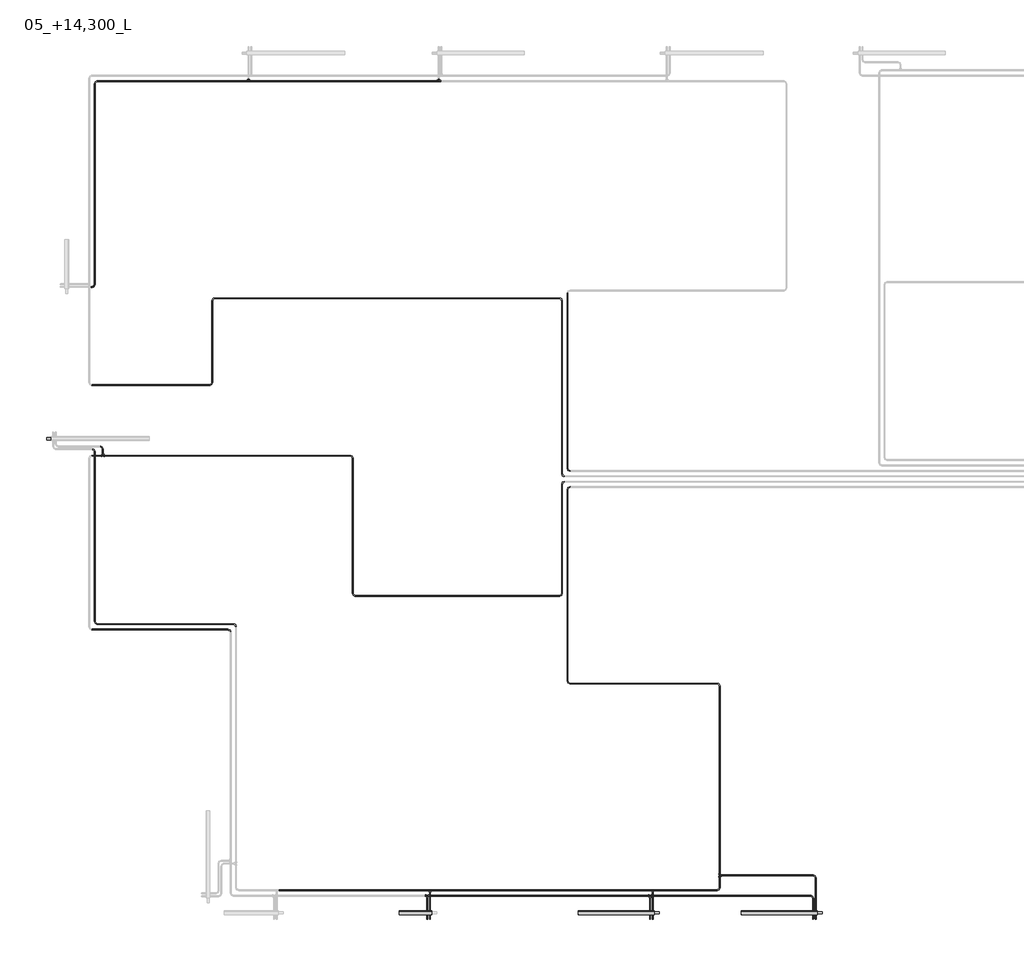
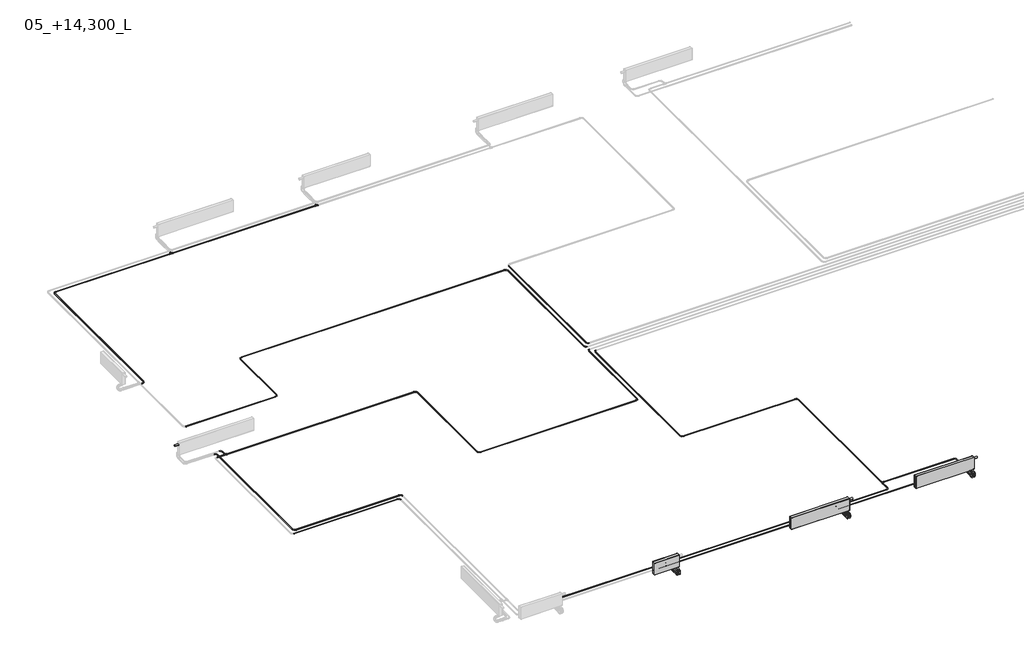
# One storey, part 7 of 15: 36 pipe fittings, 33 pipe segments, 3 proxies, 3 valves.
"""IFC4 building model written with IfcOpenShell, lengths in millimetres."""

from ifc_helpers import new_model, si_unit, point, frame, frame_2d, origin, place, context, project, spatial, circle_curve, trimmed, segment, composite_curve, outline, extrude, transform, mapped, element, save
from components import mechanical_equipment_c68842d5, mechanical_equipment_feb41a6e, pipe_fitting_ed936812, pipe_fitting_44bd76dc, pipe_fitting_8f811e63, pipe_fitting_d927fdfb, valve_5b696a81, valve_d3faaedd

model = new_model("IFC4")

# Units and contexts
model_context = context("Model", 3, world=origin())
ifc_project = project(units=[si_unit("LENGTHUNIT", "METRE", prefix="MILLI")], contexts=[model_context])

# Site, building, storey
site = spatial("IfcSite", under=ifc_project)
building = spatial("IfcBuilding", under=site)
storey = spatial("IfcBuildingStorey", under=building, Name="05_+14,300_L", Elevation=14300.0)

# Proxies
placement = place(None, origin())
mechanical_equipment_shape = mechanical_equipment_c68842d5(model_context)
element("IfcBuildingElementProxy", 1, Name="EVRA CV Д : 21-300-1400", ObjectType="EVRA CV Д : 21-300-1400", at=placement, inside=storey, context=model_context, shape_type="MappedRepresentation", body=[
    mapped(mechanical_equipment_shape, transform((60800.0, 112561.4631102, 14300.0), x_axis=(-1.0, 0.0, 0.0), y_axis=(0.0, -1.0, 0.0), z_axis=(0.0, 0.0, 1.0))),
])
element("IfcBuildingElementProxy", 2, Name="EVRA CV Д : 21-300-1400", ObjectType="EVRA CV Д : 21-300-1400", at=placement, inside=storey, context=model_context, shape_type="MappedRepresentation", body=[
    mapped(mechanical_equipment_shape, transform((57800.0, 112561.4631102, 14300.0), x_axis=(-1.0, 0.0, 0.0), y_axis=(0.0, -1.0, 0.0), z_axis=(0.0, 0.0, 1.0))),
])
mechanical_equipment_2_shape = mechanical_equipment_feb41a6e(model_context)
element("IfcBuildingElementProxy", 3, Name="EVRA CV Д : 21-300-600", ObjectType="EVRA CV Д : 21-300-600", at=placement, inside=storey, context=model_context, shape_type="MappedRepresentation", body=[
    mapped(mechanical_equipment_2_shape, transform((54100.0, 112561.4631102, 14300.0), x_axis=(-1.0, 0.0, 0.0), y_axis=(0.0, -1.0, 0.0), z_axis=(0.0, 0.0, 1.0))),
])

# Pipe fittings
pipe_fitting_shape = pipe_fitting_ed936812(model_context)
element("IfcPipeFitting", 4, ObjectType="ADSK_Пресс-фитинг ПЭ_Поворот с фиксатором : Поворот трубы", at=placement, inside=storey, context=model_context, shape_type="MappedRepresentation", body=[
    mapped(pipe_fitting_shape, transform((48000.0, 124110.0000002, 14250.0), x_axis=(1.0, 0.0, 0.0), y_axis=(0.0, 1.0, 0.0), z_axis=(0.0, 0.0, 1.0))),
])
pipe_fitting_2_shape = pipe_fitting_44bd76dc(model_context)
element("IfcPipeFitting", 5, ObjectType="ADSK_Пресс-фитинг ПЭ_Тройник : Пластик черный", at=placement, inside=storey, context=model_context, shape_type="MappedRepresentation", body=[
    mapped(pipe_fitting_2_shape, transform((59500.0, 113273.0, 14250.0), x_axis=(0.0, 1.0, 0.0), y_axis=(-1.0, 0.0, 0.0), z_axis=(0.0, 0.0, 1.0))),
])
element("IfcPipeFitting", 6, ObjectType="ADSK_Пресс-фитинг ПЭ_Тройник : Пластик черный", at=placement, inside=storey, context=model_context, shape_type="MappedRepresentation", body=[
    mapped(pipe_fitting_2_shape, transform((58270.0, 113000.0, 14250.0), x_axis=(1.0, 0.0, 0.0), y_axis=(0.0, 1.0, 0.0), z_axis=(0.0, 0.0, 1.0))),
])
element("IfcPipeFitting", 7, ObjectType="ADSK_Пресс-фитинг ПЭ_Тройник : Пластик черный", at=placement, inside=storey, context=model_context, shape_type="MappedRepresentation", body=[
    mapped(pipe_fitting_2_shape, transform((48150.0, 121000.0000002, 14250.0), x_axis=(1.0, 0.0, 0.0), y_axis=(0.0, -1.0, 0.0), z_axis=(0.0, 0.0, -1.0))),
])
element("IfcPipeFitting", 8, ObjectType="ADSK_Пресс-фитинг ПЭ_Тройник : Пластик черный", at=placement, inside=storey, context=model_context, shape_type="MappedRepresentation", body=[
    mapped(pipe_fitting_2_shape, transform((50830.0, 127900.0, 14250.0), x_axis=(1.0, 0.0, 0.0), y_axis=(0.0, -1.0, 0.0), z_axis=(0.0, 0.0, -1.0))),
])
element("IfcPipeFitting", 9, ObjectType="ADSK_Пресс-фитинг ПЭ_Тройник : Пластик черный", at=placement, inside=storey, context=model_context, shape_type="MappedRepresentation", body=[
    mapped(pipe_fitting_2_shape, transform((54330.0, 127900.0, 14250.0), x_axis=(1.0, 0.0, 0.0), y_axis=(0.0, -1.0, 0.0), z_axis=(0.0, 0.0, -1.0))),
])
element("IfcPipeFitting", 10, ObjectType="ADSK_Пресс-фитинг ПЭ_Тройник : Пластик черный", at=placement, inside=storey, context=model_context, shape_type="MappedRepresentation", body=[
    mapped(pipe_fitting_2_shape, transform((58220.0, 112900.0, 14250.0), x_axis=(1.0, 0.0, 0.0), y_axis=(0.0, 1.0, 0.0), z_axis=(0.0, 0.0, 1.0))),
])
element("IfcPipeFitting", 11, ObjectType="ADSK_Пресс-фитинг ПЭ_Тройник : Пластик черный", at=placement, inside=storey, context=model_context, shape_type="MappedRepresentation", body=[
    mapped(pipe_fitting_2_shape, transform((54170.0, 113000.0, 14250.0), x_axis=(1.0, 0.0, 0.0), y_axis=(0.0, 1.0, 0.0), z_axis=(0.0, 0.0, 1.0))),
])
element("IfcPipeFitting", 12, ObjectType="ADSK_Пресс-фитинг ПЭ_Тройник : Пластик черный", at=placement, inside=storey, context=model_context, shape_type="MappedRepresentation", body=[
    mapped(pipe_fitting_2_shape, transform((54120.0, 112900.0, 14250.0), x_axis=(1.0, 0.0, 0.0), y_axis=(0.0, 1.0, 0.0), z_axis=(0.0, 0.0, 1.0))),
])
pipe_fitting_3_shape = pipe_fitting_8f811e63(model_context)
element("IfcPipeFitting", 13, ObjectType="ADSK_Пресс-фитинг ПЭ_Поворот с фиксатором : Поворот трубы", at=placement, inside=storey, context=model_context, shape_type="MappedRepresentation", body=[
    mapped(pipe_fitting_3_shape, transform((59500.0, 116805.0000002, 14250.0), x_axis=(0.0, 1.0, 0.0), y_axis=(-1.0, 0.0, 0.0), z_axis=(0.0, 0.0, 1.0))),
])
element("IfcPipeFitting", 14, ObjectType="ADSK_Пресс-фитинг ПЭ_Поворот с фиксатором : Поворот трубы", at=placement, inside=storey, context=model_context, shape_type="MappedRepresentation", body=[
    mapped(pipe_fitting_3_shape, transform((59500.0, 113000.0, 14250.0), x_axis=(1.0, 0.0, 0.0), y_axis=(0.0, 1.0, 0.0), z_axis=(0.0, 0.0, 1.0))),
])
element("IfcPipeFitting", 15, ObjectType="ADSK_Пресс-фитинг ПЭ_Поворот с фиксатором : Поворот трубы", at=placement, inside=storey, context=model_context, shape_type="MappedRepresentation", body=[
    mapped(pipe_fitting_3_shape, transform((48000.0, 127900.0, 14250.0), x_axis=(-1.0, 0.0, 0.0), y_axis=(0.0, -1.0, 0.0), z_axis=(0.0, 0.0, 1.0))),
])
element("IfcPipeFitting", 16, ObjectType="ADSK_Пресс-фитинг ПЭ_Поворот с фиксатором : Поворот трубы", at=placement, inside=storey, context=model_context, shape_type="MappedRepresentation", body=[
    mapped(pipe_fitting_3_shape, transform((56700.0, 116805.0000002, 14250.0), x_axis=(0.0, -1.0, 0.0), y_axis=(1.0, 0.0, 0.0), z_axis=(0.0, 0.0, 1.0))),
])
element("IfcPipeFitting", 17, ObjectType="ADSK_Пресс-фитинг ПЭ_Поворот с фиксатором : Поворот трубы", at=placement, inside=storey, context=model_context, shape_type="MappedRepresentation", body=[
    mapped(pipe_fitting_3_shape, transform((56600.0, 118420.0, 14250.0), x_axis=(1.0, 0.0, 0.0), y_axis=(0.0, 1.0, 0.0), z_axis=(0.0, 0.0, 1.0))),
])
element("IfcPipeFitting", 18, ObjectType="ADSK_Пресс-фитинг ПЭ_Поворот с фиксатором : Поворот трубы", at=placement, inside=storey, context=model_context, shape_type="MappedRepresentation", body=[
    mapped(pipe_fitting_3_shape, transform((56600.0, 123900.0, 14250.0), x_axis=(0.0, 1.0, 0.0), y_axis=(-1.0, 0.0, 0.0), z_axis=(0.0, 0.0, 1.0))),
])
element("IfcPipeFitting", 19, ObjectType="ADSK_Пресс-фитинг ПЭ_Поворот с фиксатором : Поворот трубы", at=placement, inside=storey, context=model_context, shape_type="MappedRepresentation", body=[
    mapped(pipe_fitting_3_shape, transform((56700.0, 120421.8369308, 14250.0), x_axis=(-1.0, 0.0, 0.0), y_axis=(0.0, -1.0, 0.0), z_axis=(0.0, 0.0, 1.0))),
])
element("IfcPipeFitting", 20, ObjectType="ADSK_Пресс-фитинг ПЭ_Поворот с фиксатором : Поворот трубы", at=placement, inside=storey, context=model_context, shape_type="MappedRepresentation", body=[
    mapped(pipe_fitting_3_shape, transform((56600.0, 120521.8369308, 14250.0), x_axis=(-1.0, 0.0, 0.0), y_axis=(0.0, -1.0, 0.0), z_axis=(0.0, 0.0, 1.0))),
])
element("IfcPipeFitting", 21, ObjectType="ADSK_Пресс-фитинг ПЭ_Поворот с фиксатором : Поворот трубы", at=placement, inside=storey, context=model_context, shape_type="MappedRepresentation", body=[
    mapped(pipe_fitting_3_shape, transform((56600.0, 120621.8369308, 14250.0), x_axis=(0.0, -1.0, 0.0), y_axis=(1.0, 0.0, 0.0), z_axis=(0.0, 0.0, 1.0))),
])
element("IfcPipeFitting", 22, ObjectType="ADSK_Пресс-фитинг ПЭ_Поворот с фиксатором : Поворот трубы", at=placement, inside=storey, context=model_context, shape_type="MappedRepresentation", body=[
    mapped(pipe_fitting_3_shape, transform((56700.0, 120721.8369308, 14250.0), x_axis=(0.0, -1.0, 0.0), y_axis=(1.0, 0.0, 0.0), z_axis=(0.0, 0.0, 1.0))),
])
element("IfcPipeFitting", 23, ObjectType="ADSK_Пресс-фитинг ПЭ_Поворот с фиксатором : Поворот трубы", at=placement, inside=storey, context=model_context, shape_type="MappedRepresentation", body=[
    mapped(pipe_fitting_3_shape, transform((50159.9999998, 123900.0, 14250.0), x_axis=(-1.0, 0.0, 0.0), y_axis=(0.0, -1.0, 0.0), z_axis=(0.0, 0.0, 1.0))),
])
element("IfcPipeFitting", 24, ObjectType="ADSK_Пресс-фитинг ПЭ_Поворот с фиксатором : Поворот трубы", at=placement, inside=storey, context=model_context, shape_type="MappedRepresentation", body=[
    mapped(pipe_fitting_3_shape, transform((50159.9999998, 122300.0, 14250.0), x_axis=(1.0, 0.0, 0.0), y_axis=(0.0, 1.0, 0.0), z_axis=(0.0, 0.0, 1.0))),
])
element("IfcPipeFitting", 25, ObjectType="ADSK_Пресс-фитинг ПЭ_Поворот с фиксатором : Поворот трубы", at=placement, inside=storey, context=model_context, shape_type="MappedRepresentation", body=[
    mapped(pipe_fitting_3_shape, transform((52749.0000003, 118420.0, 14250.0), x_axis=(0.0, -1.0, 0.0), y_axis=(1.0, 0.0, 0.0), z_axis=(0.0, 0.0, 1.0))),
])
element("IfcPipeFitting", 26, ObjectType="ADSK_Пресс-фитинг ПЭ_Поворот с фиксатором : Поворот трубы", at=placement, inside=storey, context=model_context, shape_type="MappedRepresentation", body=[
    mapped(pipe_fitting_3_shape, transform((52749.0000003, 121000.0000002, 14250.0), x_axis=(0.0, 1.0, 0.0), y_axis=(-1.0, 0.0, 0.0), z_axis=(0.0, 0.0, 1.0))),
])
element("IfcPipeFitting", 27, ObjectType="ADSK_Пресс-фитинг ПЭ_Поворот с фиксатором : Поворот трубы", at=placement, inside=storey, context=model_context, shape_type="MappedRepresentation", body=[
    mapped(pipe_fitting_3_shape, transform((48150.0, 121173.0000002, 14250.0), x_axis=(0.0, 1.0, 0.0), y_axis=(-1.0, 0.0, 0.0), z_axis=(0.0, 0.0, 1.0))),
])
element("IfcPipeFitting", 28, ObjectType="ADSK_Пресс-фитинг ПЭ_Поворот с фиксатором : Поворот трубы", at=placement, inside=storey, context=model_context, shape_type="MappedRepresentation", body=[
    mapped(pipe_fitting_3_shape, transform((48000.0, 121123.0000002, 14250.0), x_axis=(0.0, 1.0, 0.0), y_axis=(-1.0, 0.0, 0.0), z_axis=(0.0, 0.0, 1.0))),
])
element("IfcPipeFitting", 29, ObjectType="ADSK_Пресс-фитинг ПЭ_Поворот с фиксатором : Поворот трубы", at=placement, inside=storey, context=model_context, shape_type="MappedRepresentation", body=[
    mapped(pipe_fitting_3_shape, transform((48000.0, 117900.0000002, 14250.0), x_axis=(0.0, -1.0, 0.0), y_axis=(1.0, 0.0, 0.0), z_axis=(0.0, 0.0, 1.0))),
])
element("IfcPipeFitting", 30, ObjectType="ADSK_Пресс-фитинг ПЭ_Поворот с фиксатором : Поворот трубы", at=placement, inside=storey, context=model_context, shape_type="MappedRepresentation", body=[
    mapped(pipe_fitting_3_shape, transform((50499.9999998, 117800.0000002, 14250.0), x_axis=(0.0, 1.0, 0.0), y_axis=(-1.0, 0.0, 0.0), z_axis=(0.0, 0.0, 1.0))),
])
element("IfcPipeFitting", 31, ObjectType="ADSK_Пресс-фитинг ПЭ_Поворот с фиксатором : Поворот трубы", at=placement, inside=storey, context=model_context, shape_type="MappedRepresentation", body=[
    mapped(pipe_fitting_3_shape, transform((50599.9999998, 117900.0000002, 14250.0), x_axis=(0.0, 1.0, 0.0), y_axis=(-1.0, 0.0, 0.0), z_axis=(0.0, 0.0, 1.0))),
])
element("IfcPipeFitting", 32, ObjectType="ADSK_Пресс-фитинг ПЭ_Поворот с фиксатором : Поворот трубы", at=placement, inside=storey, context=model_context, shape_type="MappedRepresentation", body=[
    mapped(pipe_fitting_3_shape, transform((61270.0, 113273.0, 14250.0), x_axis=(0.0, 1.0, 0.0), y_axis=(-1.0, 0.0, 0.0), z_axis=(0.0, 0.0, 1.0))),
])
element("IfcPipeFitting", 33, ObjectType="ADSK_Пресс-фитинг ПЭ_Поворот с фиксатором : Поворот трубы", at=placement, inside=storey, context=model_context, shape_type="MappedRepresentation", body=[
    mapped(pipe_fitting_3_shape, transform((61220.0, 112900.0, 14250.0), x_axis=(0.0, 1.0, 0.0), y_axis=(-1.0, 0.0, 0.0), z_axis=(0.0, 0.0, 1.0))),
])
pipe_fitting_4_shape = pipe_fitting_d927fdfb(model_context)
element("IfcPipeFitting", 34, ObjectType="Трубка Г-образная VTm.481.PC из стены : VTm.481.PC", at=placement, inside=storey, context=model_context, shape_type="MappedRepresentation", body=[
    mapped(pipe_fitting_4_shape, transform((61270.0, 112512.0, 14250.0), x_axis=(-1.0, 0.0, 0.0), y_axis=(0.0, -1.0, 0.0), z_axis=(0.0, 0.0, 1.0))),
])
element("IfcPipeFitting", 35, ObjectType="Трубка Г-образная VTm.481.PC из стены : VTm.481.PC", at=placement, inside=storey, context=model_context, shape_type="MappedRepresentation", body=[
    mapped(pipe_fitting_4_shape, transform((58270.0, 112512.0, 14250.0), x_axis=(-1.0, 0.0, 0.0), y_axis=(0.0, -1.0, 0.0), z_axis=(0.0, 0.0, 1.0))),
])
element("IfcPipeFitting", 36, ObjectType="Трубка Г-образная VTm.481.PC из стены : VTm.481.PC", at=placement, inside=storey, context=model_context, shape_type="MappedRepresentation", body=[
    mapped(pipe_fitting_4_shape, transform((54170.0, 112512.0, 14250.0), x_axis=(-1.0, 0.0, 0.0), y_axis=(0.0, -1.0, 0.0), z_axis=(0.0, 0.0, 1.0))),
])
element("IfcPipeFitting", 37, ObjectType="Трубка Г-образная VTm.481.PC из стены : VTm.481.PC", at=placement, inside=storey, context=model_context, shape_type="MappedRepresentation", body=[
    mapped(pipe_fitting_4_shape, transform((61220.0, 112512.0, 14250.0), x_axis=(-1.0, 0.0, 0.0), y_axis=(0.0, -1.0, 0.0), z_axis=(0.0, 0.0, 1.0))),
])
element("IfcPipeFitting", 38, ObjectType="Трубка Г-образная VTm.481.PC из стены : VTm.481.PC", at=placement, inside=storey, context=model_context, shape_type="MappedRepresentation", body=[
    mapped(pipe_fitting_4_shape, transform((58220.0, 112512.0, 14250.0), x_axis=(-1.0, 0.0, 0.0), y_axis=(0.0, -1.0, 0.0), z_axis=(0.0, 0.0, 1.0))),
])
element("IfcPipeFitting", 39, ObjectType="Трубка Г-образная VTm.481.PC из стены : VTm.481.PC", at=placement, inside=storey, context=model_context, shape_type="MappedRepresentation", body=[
    mapped(pipe_fitting_4_shape, transform((54120.0, 112512.0, 14250.0), x_axis=(-1.0, 0.0, 0.0), y_axis=(0.0, -1.0, 0.0), z_axis=(0.0, 0.0, 1.0))),
])

# Pipe segments
element("IfcPipeSegment", 40, ObjectType="ADSK_Полиэтилен сшитый", at=placement, inside=storey, context=model_context, shape_type="SweptSolid", body=[
    extrude(outline(composite_curve([segment(trimmed(circle_curve(frame_2d((127900.0, 14250.0)), 8.0), [point((127908.0, 14250.0))], [point((127900.0, 14242.0))], False, "CARTESIAN"), True, "CONTINUOUS"), segment(trimmed(circle_curve(frame_2d((127900.0, 14250.0)), 8.0), [point((127900.0, 14242.0))], [point((127892.0, 14250.0))], False, "CARTESIAN"), True, "CONTINUOUS"), segment(trimmed(circle_curve(frame_2d((127900.0, 14250.0)), 8.0), [point((127892.0, 14250.0))], [point((127900.0, 14258.0))], False, "CARTESIAN"), True, "CONTINUOUS"), segment(trimmed(circle_curve(frame_2d((127900.0, 14250.0)), 8.0), [point((127900.0, 14258.0))], [point((127908.0, 14250.0))], False, "CARTESIAN"), True, "CONTINUOUS")], self_intersect=False)), frame((48048.0, 0.0, 0.0), z_axis=(1.0, 0.0, 0.0), x_axis=(0.0, 1.0, 0.0)), (0.0, 0.0, 1.0), 2762.0),
])
element("IfcPipeSegment", 41, ObjectType="ADSK_Полиэтилен сшитый", at=placement, inside=storey, context=model_context, shape_type="SweptSolid", body=[
    extrude(outline(composite_curve([segment(trimmed(circle_curve(frame_2d((14250.0, 56600.0)), 8.0), [point((14250.0, 56592.0))], [point((14242.0, 56600.0))], False, "CARTESIAN"), True, "CONTINUOUS"), segment(trimmed(circle_curve(frame_2d((14250.0, 56600.0)), 8.0), [point((14242.0, 56600.0))], [point((14250.0, 56608.0))], False, "CARTESIAN"), True, "CONTINUOUS"), segment(trimmed(circle_curve(frame_2d((14250.0, 56600.0)), 8.0), [point((14250.0, 56608.0))], [point((14258.0, 56600.0))], False, "CARTESIAN"), True, "CONTINUOUS"), segment(trimmed(circle_curve(frame_2d((14250.0, 56600.0)), 8.0), [point((14258.0, 56600.0))], [point((14250.0, 56592.0))], False, "CARTESIAN"), True, "CONTINUOUS")], self_intersect=False)), frame((0.0, 118468.0, 0.0), z_axis=(0.0, 1.0, 0.0), x_axis=(0.0, 0.0, 1.0)), (0.0, 0.0, 1.0), 2005.8369308),
])
element("IfcPipeSegment", 42, ObjectType="ADSK_Полиэтилен сшитый", at=placement, inside=storey, context=model_context, shape_type="SweptSolid", body=[
    extrude(outline(composite_curve([segment(trimmed(circle_curve(frame_2d((14250.0, 56700.0)), 8.0), [point((14250.0, 56692.0))], [point((14242.0, 56700.0))], False, "CARTESIAN"), True, "CONTINUOUS"), segment(trimmed(circle_curve(frame_2d((14250.0, 56700.0)), 8.0), [point((14242.0, 56700.0))], [point((14250.0, 56708.0))], False, "CARTESIAN"), True, "CONTINUOUS"), segment(trimmed(circle_curve(frame_2d((14250.0, 56700.0)), 8.0), [point((14250.0, 56708.0))], [point((14258.0, 56700.0))], False, "CARTESIAN"), True, "CONTINUOUS"), segment(trimmed(circle_curve(frame_2d((14250.0, 56700.0)), 8.0), [point((14258.0, 56700.0))], [point((14250.0, 56692.0))], False, "CARTESIAN"), True, "CONTINUOUS")], self_intersect=False)), frame((0.0, 116853.0000002, 0.0), z_axis=(0.0, 1.0, 0.0), x_axis=(0.0, 0.0, 1.0)), (0.0, 0.0, 1.0), 3520.8369306),
])
element("IfcPipeSegment", 43, ObjectType="ADSK_Полиэтилен сшитый", at=placement, inside=storey, context=model_context, shape_type="SweptSolid", body=[
    extrude(outline(composite_curve([segment(trimmed(circle_curve(frame_2d((116805.0000002, 14250.0)), 8.0), [point((116797.0000002, 14250.0))], [point((116805.0000002, 14258.0))], False, "CARTESIAN"), True, "CONTINUOUS"), segment(trimmed(circle_curve(frame_2d((116805.0000002, 14250.0)), 8.0), [point((116805.0000002, 14258.0))], [point((116813.0000002, 14250.0))], False, "CARTESIAN"), True, "CONTINUOUS"), segment(trimmed(circle_curve(frame_2d((116805.0000002, 14250.0)), 8.0), [point((116813.0000002, 14250.0))], [point((116805.0000002, 14242.0))], False, "CARTESIAN"), True, "CONTINUOUS"), segment(trimmed(circle_curve(frame_2d((116805.0000002, 14250.0)), 8.0), [point((116805.0000002, 14242.0))], [point((116797.0000002, 14250.0))], False, "CARTESIAN"), True, "CONTINUOUS")], self_intersect=False)), frame((56748.0, 0.0, 0.0), z_axis=(1.0, 0.0, 0.0), x_axis=(0.0, 1.0, 0.0)), (0.0, 0.0, 1.0), 2704.0),
])
element("IfcPipeSegment", 44, ObjectType="ADSK_Полиэтилен сшитый", at=placement, inside=storey, context=model_context, shape_type="SweptSolid", body=[
    extrude(outline(composite_curve([segment(trimmed(circle_curve(frame_2d((14250.0, 59500.0)), 8.0), [point((14250.0, 59492.0))], [point((14242.0, 59500.0))], False, "CARTESIAN"), True, "CONTINUOUS"), segment(trimmed(circle_curve(frame_2d((14250.0, 59500.0)), 8.0), [point((14242.0, 59500.0))], [point((14250.0, 59508.0))], False, "CARTESIAN"), True, "CONTINUOUS"), segment(trimmed(circle_curve(frame_2d((14250.0, 59500.0)), 8.0), [point((14250.0, 59508.0))], [point((14258.0, 59500.0))], False, "CARTESIAN"), True, "CONTINUOUS"), segment(trimmed(circle_curve(frame_2d((14250.0, 59500.0)), 8.0), [point((14258.0, 59500.0))], [point((14250.0, 59492.0))], False, "CARTESIAN"), True, "CONTINUOUS")], self_intersect=False)), frame((0.0, 113048.0, 0.0), z_axis=(0.0, 1.0, 0.0), x_axis=(0.0, 0.0, 1.0)), (0.0, 0.0, 1.0), 205.0),
])
element("IfcPipeSegment", 45, ObjectType="ADSK_Полиэтилен сшитый", at=placement, inside=storey, context=model_context, shape_type="SweptSolid", body=[
    extrude(outline(composite_curve([segment(trimmed(circle_curve(frame_2d((14250.0, 61220.0)), 8.0), [point((14250.0, 61212.0))], [point((14242.0, 61220.0))], False, "CARTESIAN"), True, "CONTINUOUS"), segment(trimmed(circle_curve(frame_2d((14250.0, 61220.0)), 8.0), [point((14242.0, 61220.0))], [point((14250.0, 61228.0))], False, "CARTESIAN"), True, "CONTINUOUS"), segment(trimmed(circle_curve(frame_2d((14250.0, 61220.0)), 8.0), [point((14250.0, 61228.0))], [point((14258.0, 61220.0))], False, "CARTESIAN"), True, "CONTINUOUS"), segment(trimmed(circle_curve(frame_2d((14250.0, 61220.0)), 8.0), [point((14258.0, 61220.0))], [point((14250.0, 61212.0))], False, "CARTESIAN"), True, "CONTINUOUS")], self_intersect=False)), frame((0.0, 112627.0, 0.0), z_axis=(0.0, 1.0, 0.0), x_axis=(0.0, 0.0, 1.0)), (0.0, 0.0, 1.0), 225.0),
])
element("IfcPipeSegment", 46, ObjectType="ADSK_Полиэтилен сшитый", at=placement, inside=storey, context=model_context, shape_type="SweptSolid", body=[
    extrude(outline(composite_curve([segment(trimmed(circle_curve(frame_2d((112900.0, 14250.0)), 8.0), [point((112892.0, 14250.0))], [point((112900.0, 14258.0))], False, "CARTESIAN"), True, "CONTINUOUS"), segment(trimmed(circle_curve(frame_2d((112900.0, 14250.0)), 8.0), [point((112900.0, 14258.0))], [point((112908.0, 14250.0))], False, "CARTESIAN"), True, "CONTINUOUS"), segment(trimmed(circle_curve(frame_2d((112900.0, 14250.0)), 8.0), [point((112908.0, 14250.0))], [point((112900.0, 14242.0))], False, "CARTESIAN"), True, "CONTINUOUS"), segment(trimmed(circle_curve(frame_2d((112900.0, 14250.0)), 8.0), [point((112900.0, 14242.0))], [point((112892.0, 14250.0))], False, "CARTESIAN"), True, "CONTINUOUS")], self_intersect=False)), frame((58240.0, 0.0, 0.0), z_axis=(1.0, 0.0, 0.0), x_axis=(0.0, 1.0, 0.0)), (0.0, 0.0, 1.0), 2932.0),
])
element("IfcPipeSegment", 47, ObjectType="ADSK_Полиэтилен сшитый", at=placement, inside=storey, context=model_context, shape_type="SweptSolid", body=[
    extrude(outline(composite_curve([segment(trimmed(circle_curve(frame_2d((14250.0, 61270.0)), 8.0), [point((14250.0, 61262.0))], [point((14242.0, 61270.0))], False, "CARTESIAN"), True, "CONTINUOUS"), segment(trimmed(circle_curve(frame_2d((14250.0, 61270.0)), 8.0), [point((14242.0, 61270.0))], [point((14250.0, 61278.0))], False, "CARTESIAN"), True, "CONTINUOUS"), segment(trimmed(circle_curve(frame_2d((14250.0, 61270.0)), 8.0), [point((14250.0, 61278.0))], [point((14258.0, 61270.0))], False, "CARTESIAN"), True, "CONTINUOUS"), segment(trimmed(circle_curve(frame_2d((14250.0, 61270.0)), 8.0), [point((14258.0, 61270.0))], [point((14250.0, 61262.0))], False, "CARTESIAN"), True, "CONTINUOUS")], self_intersect=False)), frame((0.0, 112627.0, 0.0), z_axis=(0.0, 1.0, 0.0), x_axis=(0.0, 0.0, 1.0)), (0.0, 0.0, 1.0), 598.0),
])
element("IfcPipeSegment", 48, ObjectType="ADSK_Полиэтилен сшитый", at=placement, inside=storey, context=model_context, shape_type="SweptSolid", body=[
    extrude(outline(composite_curve([segment(trimmed(circle_curve(frame_2d((113273.0, 14250.0)), 8.0), [point((113265.0, 14250.0))], [point((113273.0, 14258.0))], False, "CARTESIAN"), True, "CONTINUOUS"), segment(trimmed(circle_curve(frame_2d((113273.0, 14250.0)), 8.0), [point((113273.0, 14258.0))], [point((113281.0, 14250.0))], False, "CARTESIAN"), True, "CONTINUOUS"), segment(trimmed(circle_curve(frame_2d((113273.0, 14250.0)), 8.0), [point((113281.0, 14250.0))], [point((113273.0, 14242.0))], False, "CARTESIAN"), True, "CONTINUOUS"), segment(trimmed(circle_curve(frame_2d((113273.0, 14250.0)), 8.0), [point((113273.0, 14242.0))], [point((113265.0, 14250.0))], False, "CARTESIAN"), True, "CONTINUOUS")], self_intersect=False)), frame((59524.0, 0.0, 0.0), z_axis=(1.0, 0.0, 0.0), x_axis=(0.0, 1.0, 0.0)), (0.0, 0.0, 1.0), 1698.0),
])
element("IfcPipeSegment", 49, ObjectType="ADSK_Полиэтилен сшитый", at=placement, inside=storey, context=model_context, shape_type="SweptSolid", body=[
    extrude(outline(composite_curve([segment(trimmed(circle_curve(frame_2d((14250.0, 59500.0)), 8.0), [point((14250.0, 59492.0))], [point((14242.0, 59500.0))], False, "CARTESIAN"), True, "CONTINUOUS"), segment(trimmed(circle_curve(frame_2d((14250.0, 59500.0)), 8.0), [point((14242.0, 59500.0))], [point((14250.0, 59508.0))], False, "CARTESIAN"), True, "CONTINUOUS"), segment(trimmed(circle_curve(frame_2d((14250.0, 59500.0)), 8.0), [point((14250.0, 59508.0))], [point((14258.0, 59500.0))], False, "CARTESIAN"), True, "CONTINUOUS"), segment(trimmed(circle_curve(frame_2d((14250.0, 59500.0)), 8.0), [point((14258.0, 59500.0))], [point((14250.0, 59492.0))], False, "CARTESIAN"), True, "CONTINUOUS")], self_intersect=False)), frame((0.0, 113293.0, 0.0), z_axis=(0.0, 1.0, 0.0), x_axis=(0.0, 0.0, 1.0)), (0.0, 0.0, 1.0), 3464.0000002),
])
element("IfcPipeSegment", 50, ObjectType="ADSK_Полиэтилен сшитый", at=placement, inside=storey, context=model_context, shape_type="SweptSolid", body=[
    extrude(outline(composite_curve([segment(trimmed(circle_curve(frame_2d((14250.0, 58220.0)), 8.0), [point((14250.0, 58212.0))], [point((14242.0, 58220.0))], False, "CARTESIAN"), True, "CONTINUOUS"), segment(trimmed(circle_curve(frame_2d((14250.0, 58220.0)), 8.0), [point((14242.0, 58220.0))], [point((14250.0, 58228.0))], False, "CARTESIAN"), True, "CONTINUOUS"), segment(trimmed(circle_curve(frame_2d((14250.0, 58220.0)), 8.0), [point((14250.0, 58228.0))], [point((14258.0, 58220.0))], False, "CARTESIAN"), True, "CONTINUOUS"), segment(trimmed(circle_curve(frame_2d((14250.0, 58220.0)), 8.0), [point((14258.0, 58220.0))], [point((14250.0, 58212.0))], False, "CARTESIAN"), True, "CONTINUOUS")], self_intersect=False)), frame((0.0, 112627.0, 0.0), z_axis=(0.0, 1.0, 0.0), x_axis=(0.0, 0.0, 1.0)), (0.0, 0.0, 1.0), 249.0),
])
element("IfcPipeSegment", 51, ObjectType="ADSK_Полиэтилен сшитый", at=placement, inside=storey, context=model_context, shape_type="SweptSolid", body=[
    extrude(outline(composite_curve([segment(trimmed(circle_curve(frame_2d((14250.0, 58270.0)), 8.0), [point((14250.0, 58262.0))], [point((14242.0, 58270.0))], False, "CARTESIAN"), True, "CONTINUOUS"), segment(trimmed(circle_curve(frame_2d((14250.0, 58270.0)), 8.0), [point((14242.0, 58270.0))], [point((14250.0, 58278.0))], False, "CARTESIAN"), True, "CONTINUOUS"), segment(trimmed(circle_curve(frame_2d((14250.0, 58270.0)), 8.0), [point((14250.0, 58278.0))], [point((14258.0, 58270.0))], False, "CARTESIAN"), True, "CONTINUOUS"), segment(trimmed(circle_curve(frame_2d((14250.0, 58270.0)), 8.0), [point((14258.0, 58270.0))], [point((14250.0, 58262.0))], False, "CARTESIAN"), True, "CONTINUOUS")], self_intersect=False)), frame((0.0, 112627.0, 0.0), z_axis=(0.0, 1.0, 0.0), x_axis=(0.0, 0.0, 1.0)), (0.0, 0.0, 1.0), 349.0),
])
element("IfcPipeSegment", 52, ObjectType="ADSK_Полиэтилен сшитый", at=placement, inside=storey, context=model_context, shape_type="SweptSolid", body=[
    extrude(outline(composite_curve([segment(trimmed(circle_curve(frame_2d((113000.0, 14250.0)), 8.0), [point((113008.0, 14250.0))], [point((113000.0, 14242.0))], False, "CARTESIAN"), True, "CONTINUOUS"), segment(trimmed(circle_curve(frame_2d((113000.0, 14250.0)), 8.0), [point((113000.0, 14242.0))], [point((112992.0, 14250.0))], False, "CARTESIAN"), True, "CONTINUOUS"), segment(trimmed(circle_curve(frame_2d((113000.0, 14250.0)), 8.0), [point((112992.0, 14250.0))], [point((113000.0, 14258.0))], False, "CARTESIAN"), True, "CONTINUOUS"), segment(trimmed(circle_curve(frame_2d((113000.0, 14250.0)), 8.0), [point((113000.0, 14258.0))], [point((113008.0, 14250.0))], False, "CARTESIAN"), True, "CONTINUOUS")], self_intersect=False)), frame((58290.0, 0.0, 0.0), z_axis=(1.0, 0.0, 0.0), x_axis=(0.0, 1.0, 0.0)), (0.0, 0.0, 1.0), 1162.0),
])
element("IfcPipeSegment", 53, ObjectType="ADSK_Полиэтилен сшитый", at=placement, inside=storey, context=model_context, shape_type="SweptSolid", body=[
    extrude(outline(composite_curve([segment(trimmed(circle_curve(frame_2d((14250.0, 56600.0)), 8.0), [point((14250.0, 56608.0))], [point((14258.0, 56600.0))], False, "CARTESIAN"), True, "CONTINUOUS"), segment(trimmed(circle_curve(frame_2d((14250.0, 56600.0)), 8.0), [point((14258.0, 56600.0))], [point((14250.0, 56592.0))], False, "CARTESIAN"), True, "CONTINUOUS"), segment(trimmed(circle_curve(frame_2d((14250.0, 56600.0)), 8.0), [point((14250.0, 56592.0))], [point((14242.0, 56600.0))], False, "CARTESIAN"), True, "CONTINUOUS"), segment(trimmed(circle_curve(frame_2d((14250.0, 56600.0)), 8.0), [point((14242.0, 56600.0))], [point((14250.0, 56608.0))], False, "CARTESIAN"), True, "CONTINUOUS")], self_intersect=False)), frame((0.0, 120669.8369308, 0.0), z_axis=(0.0, 1.0, 0.0), x_axis=(0.0, 0.0, 1.0)), (0.0, 0.0, 1.0), 3182.1630692),
])
element("IfcPipeSegment", 54, ObjectType="ADSK_Полиэтилен сшитый", at=placement, inside=storey, context=model_context, shape_type="SweptSolid", body=[
    extrude(outline(composite_curve([segment(trimmed(circle_curve(frame_2d((14250.0, 56700.0)), 8.0), [point((14250.0, 56708.0))], [point((14258.0, 56700.0))], False, "CARTESIAN"), True, "CONTINUOUS"), segment(trimmed(circle_curve(frame_2d((14250.0, 56700.0)), 8.0), [point((14258.0, 56700.0))], [point((14250.0, 56692.0))], False, "CARTESIAN"), True, "CONTINUOUS"), segment(trimmed(circle_curve(frame_2d((14250.0, 56700.0)), 8.0), [point((14250.0, 56692.0))], [point((14242.0, 56700.0))], False, "CARTESIAN"), True, "CONTINUOUS"), segment(trimmed(circle_curve(frame_2d((14250.0, 56700.0)), 8.0), [point((14242.0, 56700.0))], [point((14250.0, 56708.0))], False, "CARTESIAN"), True, "CONTINUOUS")], self_intersect=False)), frame((0.0, 120769.8369308, 0.0), z_axis=(0.0, 1.0, 0.0), x_axis=(0.0, 0.0, 1.0)), (0.0, 0.0, 1.0), 3222.1630692),
])
element("IfcPipeSegment", 55, ObjectType="ADSK_Полиэтилен сшитый", at=placement, inside=storey, context=model_context, shape_type="SweptSolid", body=[
    extrude(outline(composite_curve([segment(trimmed(circle_curve(frame_2d((127900.0, 14250.0)), 8.0), [point((127908.0, 14250.0))], [point((127900.0, 14242.0))], False, "CARTESIAN"), True, "CONTINUOUS"), segment(trimmed(circle_curve(frame_2d((127900.0, 14250.0)), 8.0), [point((127900.0, 14242.0))], [point((127892.0, 14250.0))], False, "CARTESIAN"), True, "CONTINUOUS"), segment(trimmed(circle_curve(frame_2d((127900.0, 14250.0)), 8.0), [point((127892.0, 14250.0))], [point((127900.0, 14258.0))], False, "CARTESIAN"), True, "CONTINUOUS"), segment(trimmed(circle_curve(frame_2d((127900.0, 14250.0)), 8.0), [point((127900.0, 14258.0))], [point((127908.0, 14250.0))], False, "CARTESIAN"), True, "CONTINUOUS")], self_intersect=False)), frame((50850.0, 0.0, 0.0), z_axis=(1.0, 0.0, 0.0), x_axis=(0.0, 1.0, 0.0)), (0.0, 0.0, 1.0), 3460.0),
])
element("IfcPipeSegment", 56, ObjectType="ADSK_Полиэтилен сшитый", at=placement, inside=storey, context=model_context, shape_type="SweptSolid", body=[
    extrude(outline(composite_curve([segment(trimmed(circle_curve(frame_2d((14250.0, 48000.0)), 8.0), [point((14250.0, 47992.0))], [point((14242.0, 48000.0))], False, "CARTESIAN"), True, "CONTINUOUS"), segment(trimmed(circle_curve(frame_2d((14250.0, 48000.0)), 8.0), [point((14242.0, 48000.0))], [point((14250.0, 48008.0))], False, "CARTESIAN"), True, "CONTINUOUS"), segment(trimmed(circle_curve(frame_2d((14250.0, 48000.0)), 8.0), [point((14250.0, 48008.0))], [point((14258.0, 48000.0))], False, "CARTESIAN"), True, "CONTINUOUS"), segment(trimmed(circle_curve(frame_2d((14250.0, 48000.0)), 8.0), [point((14258.0, 48000.0))], [point((14250.0, 47992.0))], False, "CARTESIAN"), True, "CONTINUOUS")], self_intersect=False)), frame((0.0, 124158.0000002, 0.0), z_axis=(0.0, 1.0, 0.0), x_axis=(0.0, 0.0, 1.0)), (0.0, 0.0, 1.0), 3693.9999998),
])
element("IfcPipeSegment", 57, ObjectType="ADSK_Полиэтилен сшитый", at=placement, inside=storey, context=model_context, shape_type="SweptSolid", body=[
    extrude(outline(composite_curve([segment(trimmed(circle_curve(frame_2d((123900.0, 14250.0)), 8.0), [point((123908.0, 14250.0))], [point((123900.0, 14242.0))], False, "CARTESIAN"), True, "CONTINUOUS"), segment(trimmed(circle_curve(frame_2d((123900.0, 14250.0)), 8.0), [point((123900.0, 14242.0))], [point((123892.0, 14250.0))], False, "CARTESIAN"), True, "CONTINUOUS"), segment(trimmed(circle_curve(frame_2d((123900.0, 14250.0)), 8.0), [point((123892.0, 14250.0))], [point((123900.0, 14258.0))], False, "CARTESIAN"), True, "CONTINUOUS"), segment(trimmed(circle_curve(frame_2d((123900.0, 14250.0)), 8.0), [point((123900.0, 14258.0))], [point((123908.0, 14250.0))], False, "CARTESIAN"), True, "CONTINUOUS")], self_intersect=False)), frame((50207.9999998, 0.0, 0.0), z_axis=(1.0, 0.0, 0.0), x_axis=(0.0, 1.0, 0.0)), (0.0, 0.0, 1.0), 6344.0000002),
])
element("IfcPipeSegment", 58, ObjectType="ADSK_Полиэтилен сшитый", at=placement, inside=storey, context=model_context, shape_type="SweptSolid", body=[
    extrude(outline(composite_curve([segment(trimmed(circle_curve(frame_2d((14250.0, 50159.9999998)), 8.0), [point((14250.0, 50151.9999998))], [point((14242.0, 50159.9999998))], False, "CARTESIAN"), True, "CONTINUOUS"), segment(trimmed(circle_curve(frame_2d((14250.0, 50159.9999998)), 8.0), [point((14242.0, 50159.9999998))], [point((14250.0, 50167.9999998))], False, "CARTESIAN"), True, "CONTINUOUS"), segment(trimmed(circle_curve(frame_2d((14250.0, 50159.9999998)), 8.0), [point((14250.0, 50167.9999998))], [point((14258.0, 50159.9999998))], False, "CARTESIAN"), True, "CONTINUOUS"), segment(trimmed(circle_curve(frame_2d((14250.0, 50159.9999998)), 8.0), [point((14258.0, 50159.9999998))], [point((14250.0, 50151.9999998))], False, "CARTESIAN"), True, "CONTINUOUS")], self_intersect=False)), frame((0.0, 122348.0, 0.0), z_axis=(0.0, 1.0, 0.0), x_axis=(0.0, 0.0, 1.0)), (0.0, 0.0, 1.0), 1504.0),
])
element("IfcPipeSegment", 59, ObjectType="ADSK_Полиэтилен сшитый", at=placement, inside=storey, context=model_context, shape_type="SweptSolid", body=[
    extrude(outline(composite_curve([segment(trimmed(circle_curve(frame_2d((122300.0, 14250.0)), 8.0), [point((122292.0, 14250.0))], [point((122300.0, 14258.0))], False, "CARTESIAN"), True, "CONTINUOUS"), segment(trimmed(circle_curve(frame_2d((122300.0, 14250.0)), 8.0), [point((122300.0, 14258.0))], [point((122308.0, 14250.0))], False, "CARTESIAN"), True, "CONTINUOUS"), segment(trimmed(circle_curve(frame_2d((122300.0, 14250.0)), 8.0), [point((122308.0, 14250.0))], [point((122300.0, 14242.0))], False, "CARTESIAN"), True, "CONTINUOUS"), segment(trimmed(circle_curve(frame_2d((122300.0, 14250.0)), 8.0), [point((122300.0, 14242.0))], [point((122292.0, 14250.0))], False, "CARTESIAN"), True, "CONTINUOUS")], self_intersect=False)), frame((47948.0, 0.0, 0.0), z_axis=(1.0, 0.0, 0.0), x_axis=(0.0, 1.0, 0.0)), (0.0, 0.0, 1.0), 2163.9999998),
])
element("IfcPipeSegment", 60, ObjectType="ADSK_Полиэтилен сшитый", at=placement, inside=storey, context=model_context, shape_type="SweptSolid", body=[
    extrude(outline(composite_curve([segment(trimmed(circle_curve(frame_2d((118420.0, 14250.0)), 8.0), [point((118428.0, 14250.0))], [point((118420.0, 14242.0))], False, "CARTESIAN"), True, "CONTINUOUS"), segment(trimmed(circle_curve(frame_2d((118420.0, 14250.0)), 8.0), [point((118420.0, 14242.0))], [point((118412.0, 14250.0))], False, "CARTESIAN"), True, "CONTINUOUS"), segment(trimmed(circle_curve(frame_2d((118420.0, 14250.0)), 8.0), [point((118412.0, 14250.0))], [point((118420.0, 14258.0))], False, "CARTESIAN"), True, "CONTINUOUS"), segment(trimmed(circle_curve(frame_2d((118420.0, 14250.0)), 8.0), [point((118420.0, 14258.0))], [point((118428.0, 14250.0))], False, "CARTESIAN"), True, "CONTINUOUS")], self_intersect=False)), frame((52797.0000003, 0.0, 0.0), z_axis=(1.0, 0.0, 0.0), x_axis=(0.0, 1.0, 0.0)), (0.0, 0.0, 1.0), 3754.9999997),
])
element("IfcPipeSegment", 61, ObjectType="ADSK_Полиэтилен сшитый", at=placement, inside=storey, context=model_context, shape_type="SweptSolid", body=[
    extrude(outline(composite_curve([segment(trimmed(circle_curve(frame_2d((14250.0, 52749.0000003)), 8.0), [point((14250.0, 52757.0000003))], [point((14258.0, 52749.0000003))], False, "CARTESIAN"), True, "CONTINUOUS"), segment(trimmed(circle_curve(frame_2d((14250.0, 52749.0000003)), 8.0), [point((14258.0, 52749.0000003))], [point((14250.0, 52741.0000003))], False, "CARTESIAN"), True, "CONTINUOUS"), segment(trimmed(circle_curve(frame_2d((14250.0, 52749.0000003)), 8.0), [point((14250.0, 52741.0000003))], [point((14242.0, 52749.0000003))], False, "CARTESIAN"), True, "CONTINUOUS"), segment(trimmed(circle_curve(frame_2d((14250.0, 52749.0000003)), 8.0), [point((14242.0, 52749.0000003))], [point((14250.0, 52757.0000003))], False, "CARTESIAN"), True, "CONTINUOUS")], self_intersect=False)), frame((0.0, 118468.0, 0.0), z_axis=(0.0, 1.0, 0.0), x_axis=(0.0, 0.0, 1.0)), (0.0, 0.0, 1.0), 2484.0000002),
])
element("IfcPipeSegment", 62, ObjectType="ADSK_Полиэтилен сшитый", at=placement, inside=storey, context=model_context, shape_type="SweptSolid", body=[
    extrude(outline(composite_curve([segment(trimmed(circle_curve(frame_2d((14250.0, 48000.0)), 8.0), [point((14250.0, 47992.0))], [point((14242.0, 48000.0))], False, "CARTESIAN"), True, "CONTINUOUS"), segment(trimmed(circle_curve(frame_2d((14250.0, 48000.0)), 8.0), [point((14242.0, 48000.0))], [point((14250.0, 48008.0))], False, "CARTESIAN"), True, "CONTINUOUS"), segment(trimmed(circle_curve(frame_2d((14250.0, 48000.0)), 8.0), [point((14250.0, 48008.0))], [point((14258.0, 48000.0))], False, "CARTESIAN"), True, "CONTINUOUS"), segment(trimmed(circle_curve(frame_2d((14250.0, 48000.0)), 8.0), [point((14258.0, 48000.0))], [point((14250.0, 47992.0))], False, "CARTESIAN"), True, "CONTINUOUS")], self_intersect=False)), frame((0.0, 117948.0000002, 0.0), z_axis=(0.0, 1.0, 0.0), x_axis=(0.0, 0.0, 1.0)), (0.0, 0.0, 1.0), 3127.0),
])
element("IfcPipeSegment", 63, ObjectType="ADSK_Полиэтилен сшитый", at=placement, inside=storey, context=model_context, shape_type="SweptSolid", body=[
    extrude(outline(composite_curve([segment(trimmed(circle_curve(frame_2d((117900.0000002, 14250.0)), 8.0), [point((117892.0000002, 14250.0))], [point((117900.0000002, 14258.0))], False, "CARTESIAN"), True, "CONTINUOUS"), segment(trimmed(circle_curve(frame_2d((117900.0000002, 14250.0)), 8.0), [point((117900.0000002, 14258.0))], [point((117908.0000002, 14250.0))], False, "CARTESIAN"), True, "CONTINUOUS"), segment(trimmed(circle_curve(frame_2d((117900.0000002, 14250.0)), 8.0), [point((117908.0000002, 14250.0))], [point((117900.0000002, 14242.0))], False, "CARTESIAN"), True, "CONTINUOUS"), segment(trimmed(circle_curve(frame_2d((117900.0000002, 14250.0)), 8.0), [point((117900.0000002, 14242.0))], [point((117892.0000002, 14250.0))], False, "CARTESIAN"), True, "CONTINUOUS")], self_intersect=False)), frame((48048.0, 0.0, 0.0), z_axis=(1.0, 0.0, 0.0), x_axis=(0.0, 1.0, 0.0)), (0.0, 0.0, 1.0), 2503.9999998),
])
element("IfcPipeSegment", 64, ObjectType="ADSK_Полиэтилен сшитый", at=placement, inside=storey, context=model_context, shape_type="SweptSolid", body=[
    extrude(outline(composite_curve([segment(trimmed(circle_curve(frame_2d((117800.0000002, 14250.0)), 8.0), [point((117792.0000002, 14250.0))], [point((117800.0000002, 14258.0))], False, "CARTESIAN"), True, "CONTINUOUS"), segment(trimmed(circle_curve(frame_2d((117800.0000002, 14250.0)), 8.0), [point((117800.0000002, 14258.0))], [point((117808.0000002, 14250.0))], False, "CARTESIAN"), True, "CONTINUOUS"), segment(trimmed(circle_curve(frame_2d((117800.0000002, 14250.0)), 8.0), [point((117808.0000002, 14250.0))], [point((117800.0000002, 14242.0))], False, "CARTESIAN"), True, "CONTINUOUS"), segment(trimmed(circle_curve(frame_2d((117800.0000002, 14250.0)), 8.0), [point((117800.0000002, 14242.0))], [point((117792.0000002, 14250.0))], False, "CARTESIAN"), True, "CONTINUOUS")], self_intersect=False)), frame((47948.0, 0.0, 0.0), z_axis=(1.0, 0.0, 0.0), x_axis=(0.0, 1.0, 0.0)), (0.0, 0.0, 1.0), 2503.9999998),
])
element("IfcPipeSegment", 65, ObjectType="ADSK_Полиэтилен сшитый", at=placement, inside=storey, context=model_context, shape_type="SweptSolid", body=[
    extrude(outline(composite_curve([segment(trimmed(circle_curve(frame_2d((121000.0000002, 14250.0)), 8.0), [point((121008.0000002, 14250.0))], [point((121000.0000002, 14242.0))], False, "CARTESIAN"), True, "CONTINUOUS"), segment(trimmed(circle_curve(frame_2d((121000.0000002, 14250.0)), 8.0), [point((121000.0000002, 14242.0))], [point((120992.0000002, 14250.0))], False, "CARTESIAN"), True, "CONTINUOUS"), segment(trimmed(circle_curve(frame_2d((121000.0000002, 14250.0)), 8.0), [point((120992.0000002, 14250.0))], [point((121000.0000002, 14258.0))], False, "CARTESIAN"), True, "CONTINUOUS"), segment(trimmed(circle_curve(frame_2d((121000.0000002, 14250.0)), 8.0), [point((121000.0000002, 14258.0))], [point((121008.0000002, 14250.0))], False, "CARTESIAN"), True, "CONTINUOUS")], self_intersect=False)), frame((47948.0, 0.0, 0.0), z_axis=(1.0, 0.0, 0.0), x_axis=(0.0, 1.0, 0.0)), (0.0, 0.0, 1.0), 183.0),
])
element("IfcPipeSegment", 66, ObjectType="ADSK_Полиэтилен сшитый", at=placement, inside=storey, context=model_context, shape_type="SweptSolid", body=[
    extrude(outline(composite_curve([segment(trimmed(circle_curve(frame_2d((14250.0, 48150.0)), 8.0), [point((14250.0, 48158.0))], [point((14258.0, 48150.0))], False, "CARTESIAN"), True, "CONTINUOUS"), segment(trimmed(circle_curve(frame_2d((14250.0, 48150.0)), 8.0), [point((14258.0, 48150.0))], [point((14250.0, 48142.0))], False, "CARTESIAN"), True, "CONTINUOUS"), segment(trimmed(circle_curve(frame_2d((14250.0, 48150.0)), 8.0), [point((14250.0, 48142.0))], [point((14242.0, 48150.0))], False, "CARTESIAN"), True, "CONTINUOUS"), segment(trimmed(circle_curve(frame_2d((14250.0, 48150.0)), 8.0), [point((14242.0, 48150.0))], [point((14250.0, 48158.0))], False, "CARTESIAN"), True, "CONTINUOUS")], self_intersect=False)), frame((0.0, 121024.0000002, 0.0), z_axis=(0.0, 1.0, 0.0), x_axis=(0.0, 0.0, 1.0)), (0.0, 0.0, 1.0), 101.0),
])
element("IfcPipeSegment", 67, ObjectType="ADSK_Полиэтилен сшитый", at=placement, inside=storey, context=model_context, shape_type="SweptSolid", body=[
    extrude(outline(composite_curve([segment(trimmed(circle_curve(frame_2d((121000.0000002, 14250.0)), 8.0), [point((121008.0000002, 14250.0))], [point((121000.0000002, 14242.0))], False, "CARTESIAN"), True, "CONTINUOUS"), segment(trimmed(circle_curve(frame_2d((121000.0000002, 14250.0)), 8.0), [point((121000.0000002, 14242.0))], [point((120992.0000002, 14250.0))], False, "CARTESIAN"), True, "CONTINUOUS"), segment(trimmed(circle_curve(frame_2d((121000.0000002, 14250.0)), 8.0), [point((120992.0000002, 14250.0))], [point((121000.0000002, 14258.0))], False, "CARTESIAN"), True, "CONTINUOUS"), segment(trimmed(circle_curve(frame_2d((121000.0000002, 14250.0)), 8.0), [point((121000.0000002, 14258.0))], [point((121008.0000002, 14250.0))], False, "CARTESIAN"), True, "CONTINUOUS")], self_intersect=False)), frame((48170.0, 0.0, 0.0), z_axis=(1.0, 0.0, 0.0), x_axis=(0.0, 1.0, 0.0)), (0.0, 0.0, 1.0), 4531.0000003),
])
element("IfcPipeSegment", 68, ObjectType="ADSK_Полиэтилен сшитый", at=placement, inside=storey, context=model_context, shape_type="SweptSolid", body=[
    extrude(outline(composite_curve([segment(trimmed(circle_curve(frame_2d((112900.0, 14250.0)), 8.0), [point((112892.0, 14250.0))], [point((112900.0, 14258.0))], False, "CARTESIAN"), True, "CONTINUOUS"), segment(trimmed(circle_curve(frame_2d((112900.0, 14250.0)), 8.0), [point((112900.0, 14258.0))], [point((112908.0, 14250.0))], False, "CARTESIAN"), True, "CONTINUOUS"), segment(trimmed(circle_curve(frame_2d((112900.0, 14250.0)), 8.0), [point((112908.0, 14250.0))], [point((112900.0, 14242.0))], False, "CARTESIAN"), True, "CONTINUOUS"), segment(trimmed(circle_curve(frame_2d((112900.0, 14250.0)), 8.0), [point((112900.0, 14242.0))], [point((112892.0, 14250.0))], False, "CARTESIAN"), True, "CONTINUOUS")], self_intersect=False)), frame((54140.0, 0.0, 0.0), z_axis=(1.0, 0.0, 0.0), x_axis=(0.0, 1.0, 0.0)), (0.0, 0.0, 1.0), 4060.0),
])
element("IfcPipeSegment", 69, ObjectType="ADSK_Полиэтилен сшитый", at=placement, inside=storey, context=model_context, shape_type="SweptSolid", body=[
    extrude(outline(composite_curve([segment(trimmed(circle_curve(frame_2d((14250.0, 54170.0)), 8.0), [point((14250.0, 54162.0))], [point((14242.0, 54170.0))], False, "CARTESIAN"), True, "CONTINUOUS"), segment(trimmed(circle_curve(frame_2d((14250.0, 54170.0)), 8.0), [point((14242.0, 54170.0))], [point((14250.0, 54178.0))], False, "CARTESIAN"), True, "CONTINUOUS"), segment(trimmed(circle_curve(frame_2d((14250.0, 54170.0)), 8.0), [point((14250.0, 54178.0))], [point((14258.0, 54170.0))], False, "CARTESIAN"), True, "CONTINUOUS"), segment(trimmed(circle_curve(frame_2d((14250.0, 54170.0)), 8.0), [point((14258.0, 54170.0))], [point((14250.0, 54162.0))], False, "CARTESIAN"), True, "CONTINUOUS")], self_intersect=False)), frame((0.0, 112627.0, 0.0), z_axis=(0.0, 1.0, 0.0), x_axis=(0.0, 0.0, 1.0)), (0.0, 0.0, 1.0), 347.0),
])
element("IfcPipeSegment", 70, ObjectType="ADSK_Полиэтилен сшитый", at=placement, inside=storey, context=model_context, shape_type="SweptSolid", body=[
    extrude(outline(composite_curve([segment(trimmed(circle_curve(frame_2d((113000.0, 14250.0)), 8.0), [point((113008.0, 14250.0))], [point((113000.0, 14242.0))], False, "CARTESIAN"), True, "CONTINUOUS"), segment(trimmed(circle_curve(frame_2d((113000.0, 14250.0)), 8.0), [point((113000.0, 14242.0))], [point((112992.0, 14250.0))], False, "CARTESIAN"), True, "CONTINUOUS"), segment(trimmed(circle_curve(frame_2d((113000.0, 14250.0)), 8.0), [point((112992.0, 14250.0))], [point((113000.0, 14258.0))], False, "CARTESIAN"), True, "CONTINUOUS"), segment(trimmed(circle_curve(frame_2d((113000.0, 14250.0)), 8.0), [point((113000.0, 14258.0))], [point((113008.0, 14250.0))], False, "CARTESIAN"), True, "CONTINUOUS")], self_intersect=False)), frame((54189.0, 0.0, 0.0), z_axis=(1.0, 0.0, 0.0), x_axis=(0.0, 1.0, 0.0)), (0.0, 0.0, 1.0), 4061.0),
])
element("IfcPipeSegment", 71, ObjectType="ADSK_Полиэтилен сшитый", at=placement, inside=storey, context=model_context, shape_type="SweptSolid", body=[
    extrude(outline(composite_curve([segment(trimmed(circle_curve(frame_2d((14250.0, 54120.0)), 8.0), [point((14250.0, 54112.0))], [point((14242.0, 54120.0))], False, "CARTESIAN"), True, "CONTINUOUS"), segment(trimmed(circle_curve(frame_2d((14250.0, 54120.0)), 8.0), [point((14242.0, 54120.0))], [point((14250.0, 54128.0))], False, "CARTESIAN"), True, "CONTINUOUS"), segment(trimmed(circle_curve(frame_2d((14250.0, 54120.0)), 8.0), [point((14250.0, 54128.0))], [point((14258.0, 54120.0))], False, "CARTESIAN"), True, "CONTINUOUS"), segment(trimmed(circle_curve(frame_2d((14250.0, 54120.0)), 8.0), [point((14258.0, 54120.0))], [point((14250.0, 54112.0))], False, "CARTESIAN"), True, "CONTINUOUS")], self_intersect=False)), frame((0.0, 112627.0, 0.0), z_axis=(0.0, 1.0, 0.0), x_axis=(0.0, 0.0, 1.0)), (0.0, 0.0, 1.0), 249.0),
])
element("IfcPipeSegment", 72, ObjectType="ADSK_Полиэтилен сшитый", at=placement, inside=storey, context=model_context, shape_type="SweptSolid", body=[
    extrude(outline(composite_curve([segment(trimmed(circle_curve(frame_2d((113000.0, 14250.0)), 8.0), [point((113008.0, 14250.0))], [point((113000.0, 14242.0))], False, "CARTESIAN"), True, "CONTINUOUS"), segment(trimmed(circle_curve(frame_2d((113000.0, 14250.0)), 8.0), [point((113000.0, 14242.0))], [point((112992.0, 14250.0))], False, "CARTESIAN"), True, "CONTINUOUS"), segment(trimmed(circle_curve(frame_2d((113000.0, 14250.0)), 8.0), [point((112992.0, 14250.0))], [point((113000.0, 14258.0))], False, "CARTESIAN"), True, "CONTINUOUS"), segment(trimmed(circle_curve(frame_2d((113000.0, 14250.0)), 8.0), [point((113000.0, 14258.0))], [point((113008.0, 14250.0))], False, "CARTESIAN"), True, "CONTINUOUS")], self_intersect=False)), frame((51370.0, 0.0, 0.0), z_axis=(1.0, 0.0, 0.0), x_axis=(0.0, 1.0, 0.0)), (0.0, 0.0, 1.0), 2781.0),
])

# Valves
valve_shape = valve_5b696a81(model_context)
element("IfcValve", 73, ObjectType="EVRA_Термоголовка EVRA MТB140 : EVRA MТB140", at=placement, inside=storey, context=model_context, shape_type="MappedRepresentation", body=[
    mapped(valve_shape, transform((60600.0, 112587.0, 14650.0), x_axis=(-1.0, 0.0, 0.0), y_axis=(0.0, -1.0, 0.0), z_axis=(0.0, 0.0, 1.0))),
])
element("IfcValve", 74, ObjectType="EVRA_Термоголовка EVRA MТB140 : EVRA MТB140", at=placement, inside=storey, context=model_context, shape_type="MappedRepresentation", body=[
    mapped(valve_shape, transform((57600.0, 112587.0, 14650.0), x_axis=(-1.0, 0.0, 0.0), y_axis=(0.0, -1.0, 0.0), z_axis=(0.0, 0.0, 1.0))),
])
valve_2_shape = valve_d3faaedd(model_context)
element("IfcValve", 75, ObjectType="EVRA_Термоголовка EVRA MТB140 : EVRA MТB140", at=placement, inside=storey, context=model_context, shape_type="MappedRepresentation", body=[
    mapped(valve_2_shape, transform((48102.548164, 121313.0000002, 14650.0), x_axis=(1.0, 0.0, 0.0), y_axis=(0.0, 1.0, 0.0), z_axis=(0.0, 0.0, 1.0))),
])

save(model, "model.ifc")
